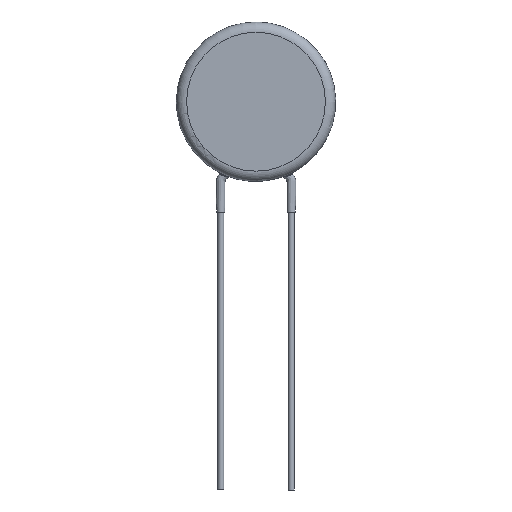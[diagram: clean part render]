
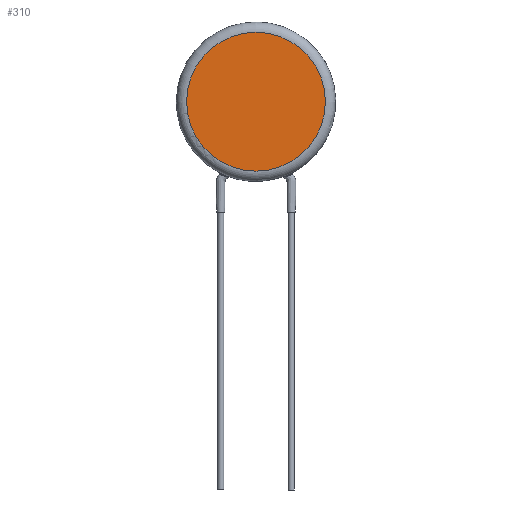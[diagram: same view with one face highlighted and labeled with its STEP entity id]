
A CAD part, front view. The second image highlights one B-rep face of the part: STEP entity #310.
In plain terms, the highlighted planar face has unit normal (0, -1, 0).
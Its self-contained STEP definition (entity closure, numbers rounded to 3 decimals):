
#62=PLANE('',#363);
#80=FACE_OUTER_BOUND('',#101,.T.);
#101=EDGE_LOOP('',(#282,#283));
#129=CIRCLE('',#359,6.75);
#130=CIRCLE('',#360,6.75);
#158=VERTEX_POINT('',#1884);
#159=VERTEX_POINT('',#1885);
#199=EDGE_CURVE('',#158,#159,#129,.T.);
#200=EDGE_CURVE('',#159,#158,#130,.T.);
#282=ORIENTED_EDGE('',*,*,#199,.T.);
#283=ORIENTED_EDGE('',*,*,#200,.T.);
#310=ADVANCED_FACE('',(#80),#62,.T.);
#359=AXIS2_PLACEMENT_3D('',#1886,#424,#425);
#360=AXIS2_PLACEMENT_3D('',#1887,#426,#427);
#363=AXIS2_PLACEMENT_3D('',#1890,#432,#433);
#424=DIRECTION('center_axis',(0.,-1.,0.));
#425=DIRECTION('ref_axis',(-1.,0.,0.));
#426=DIRECTION('center_axis',(0.,-1.,0.));
#427=DIRECTION('ref_axis',(-1.,0.,0.));
#432=DIRECTION('center_axis',(0.,-1.,0.));
#433=DIRECTION('ref_axis',(0.,0.,1.));
#1884=CARTESIAN_POINT('',(6.75,-3.,0.));
#1885=CARTESIAN_POINT('',(0.,-3.,6.75));
#1886=CARTESIAN_POINT('Origin',(0.,-3.,0.));
#1887=CARTESIAN_POINT('Origin',(0.,-3.,0.));
#1890=CARTESIAN_POINT('Origin',(0.,-3.,0.));
